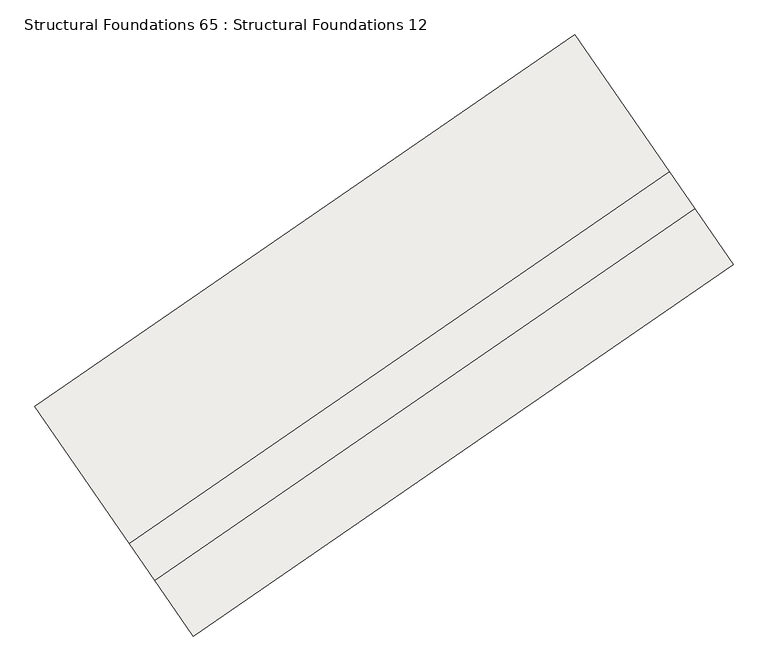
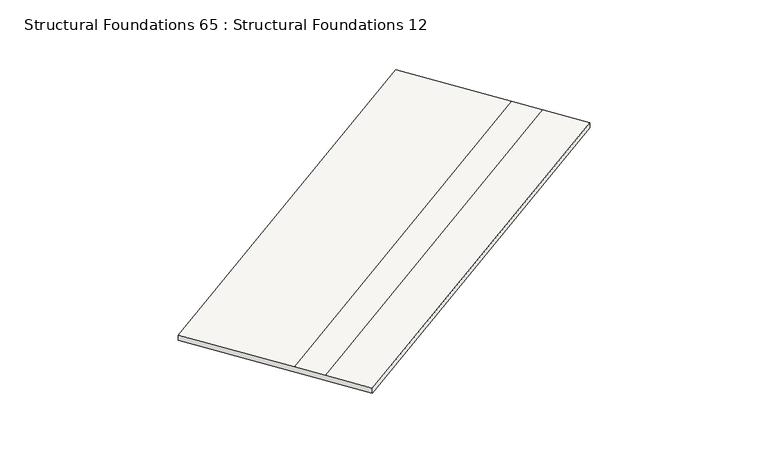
"""IFC4 building model written with IfcOpenShell, lengths in millimetres: slab geometry, Structural Foundations 65 : Structural Foundations 12."""

from ifc_helpers import new_model, si_unit, origin, place, context, project, spatial, faceted_brep, source, transform, mapped, element, save


def structural_foundations_65_structural_foundations_12_d8525302(model_context):
    return source(origin(), model_context, "Body", "Brep", [
        faceted_brep([(-324762.1274826, -428095.1238209, 634044.9999997), (-324251.5858685, -428836.3034628, 634044.9999996), (-324251.5858685, -428836.3034628, 633944.9999996), (-326350.4791694, -425789.2316042, 633945.0000001), (-326350.4791694, -425789.2316042, 634045.0000001), (-325099.6522155, -427605.1217257, 634044.9999998), (-331926.864015, -433030.3594203, 633970.9999997), (-332264.3887478, -432540.3573251, 633970.9999997), (-333515.2157017, -430724.4672036, 633971.0000001), (-333515.2157017, -430724.4672036, 633871.0000001), (-331416.3224008, -433771.5390622, 633870.9999995), (-331416.3224008, -433771.5390622, 633970.9999995)], [[[0, 1, 2, 3, 4, 5]], [[6, 7, 8, 9, 10, 11]], [[8, 7, 5, 4]], [[7, 6, 0, 5]], [[6, 11, 1, 0]], [[11, 10, 2, 1]], [[10, 9, 3, 2]], [[9, 8, 4, 3]]]),
    ])


if __name__ == "__main__":
    model = new_model("IFC4")
    model_context = context("Model", 3, world=origin())
    ifc_project = project(units=[si_unit("LENGTHUNIT", "METRE", prefix="MILLI")], contexts=[model_context])
    site = spatial("IfcSite", under=ifc_project)
    building = spatial("IfcBuilding", under=site)
    placement = place(None, origin())
    structural_foundations_65_structural_foundations_12_shape = structural_foundations_65_structural_foundations_12_d8525302(model_context)
    element("IfcSlab", 1, ObjectType="Structural Foundations 65 : Structural Foundations 12", at=placement, inside=building, context=model_context, shape_type="MappedRepresentation", body=[
        mapped(structural_foundations_65_structural_foundations_12_shape, transform((0.0, 0.0, 0.0), x_axis=(1.0, 0.0, 0.0), y_axis=(0.0, 1.0, 0.0), z_axis=(0.0, 0.0, 1.0))),
    ])
    save(model, "model.ifc")
